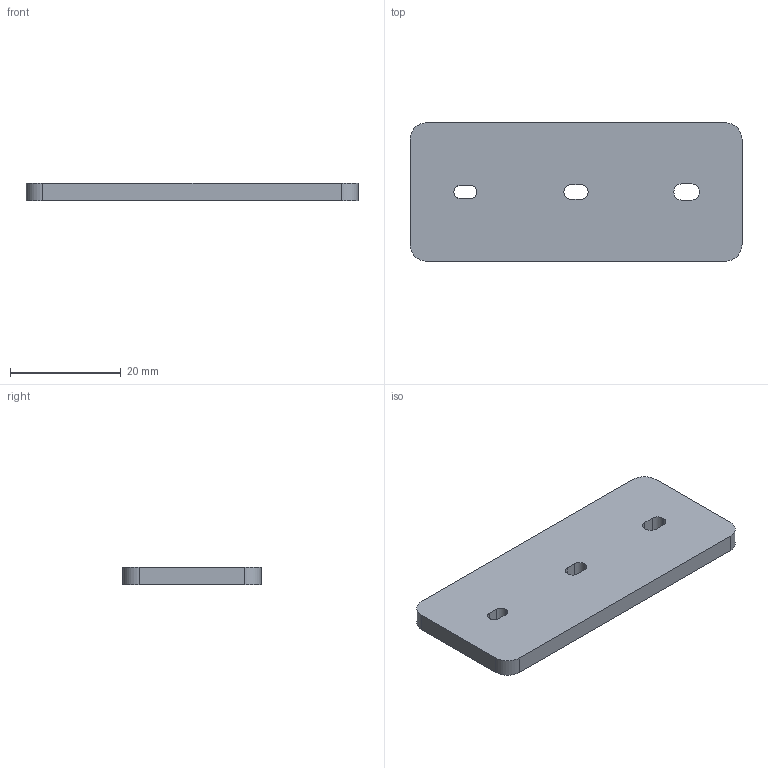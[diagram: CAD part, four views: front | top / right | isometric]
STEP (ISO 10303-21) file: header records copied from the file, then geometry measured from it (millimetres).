
FILE_DESCRIPTION(('Open CASCADE Model'),'2;1');
FILE_NAME('Open CASCADE Shape Model','2026-07-23T15:55:57',('Author'),( 'Open CASCADE'),'Open CASCADE STEP processor 7.9','Open CASCADE 7.9' ,'Unknown');
FILE_SCHEMA(('AUTOMOTIVE_DESIGN { 1 0 10303 214 1 1 1 1 }'));
Length unit declared in the file: millimetre
Products named in the file (1): Open CASCADE STEP translator 7.9 7
Bounding box: 60 x 25 x 3.2 mm (x, y, z)
Volume: 4676.7 mm3; surface area: 3564.6 mm2
Topology: 1 solids, 1 shells, 34 faces, 96 edges, 64 vertices
Faces by surface type: plane 18, cylinder 16
Entity records: 2406 total; most frequent: CARTESIAN_POINT 507, DIRECTION 350, LINE 200, VECTOR 200, ORIENTED_EDGE 192, PCURVE 192, DEFINITIONAL_REPRESENTATION 192, EDGE_CURVE 96
